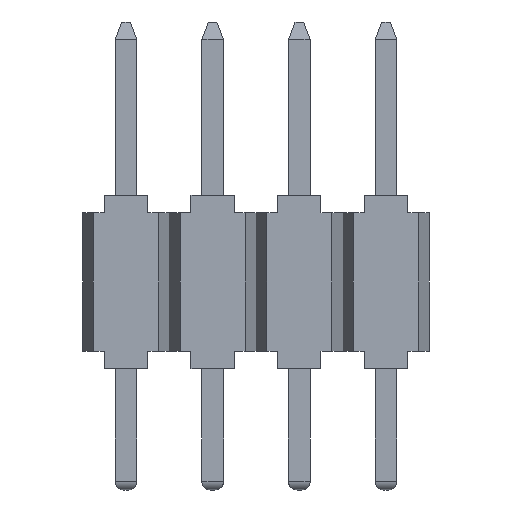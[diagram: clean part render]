
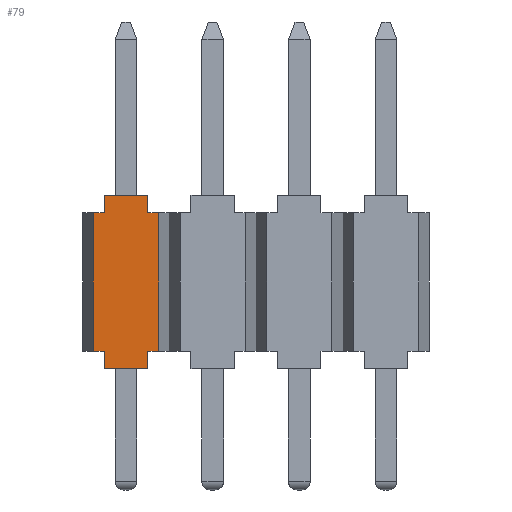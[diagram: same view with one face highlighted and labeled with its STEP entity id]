
A CAD part, front view. The second image highlights one B-rep face of the part: STEP entity #79.
In plain terms, the highlighted planar face has unit normal (0, -1, 0).
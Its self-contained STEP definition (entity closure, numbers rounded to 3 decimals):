
#79=ADVANCED_FACE('',(#391),#243,.T.);
#243=PLANE('',#3122);
#391=FACE_OUTER_BOUND('',#555,.T.);
#555=EDGE_LOOP('',(#782,#783,#784,#785,#786,#787,#788,#789,#790,#791,#792,
#793));
#782=ORIENTED_EDGE('',*,*,#1918,.T.);
#783=ORIENTED_EDGE('',*,*,#1919,.T.);
#784=ORIENTED_EDGE('',*,*,#1920,.T.);
#785=ORIENTED_EDGE('',*,*,#1921,.T.);
#786=ORIENTED_EDGE('',*,*,#1922,.F.);
#787=ORIENTED_EDGE('',*,*,#1923,.T.);
#788=ORIENTED_EDGE('',*,*,#1924,.F.);
#789=ORIENTED_EDGE('',*,*,#1925,.F.);
#790=ORIENTED_EDGE('',*,*,#1926,.T.);
#791=ORIENTED_EDGE('',*,*,#1927,.F.);
#792=ORIENTED_EDGE('',*,*,#1928,.F.);
#793=ORIENTED_EDGE('',*,*,#1929,.F.);
#1642=VERTEX_POINT('',#4200);
#1643=VERTEX_POINT('',#4201);
#1644=VERTEX_POINT('',#4203);
#1645=VERTEX_POINT('',#4205);
#1646=VERTEX_POINT('',#4207);
#1647=VERTEX_POINT('',#4209);
#1648=VERTEX_POINT('',#4211);
#1649=VERTEX_POINT('',#4213);
#1650=VERTEX_POINT('',#4215);
#1651=VERTEX_POINT('',#4217);
#1652=VERTEX_POINT('',#4219);
#1653=VERTEX_POINT('',#4221);
#1918=EDGE_CURVE('',#1642,#1643,#2348,.T.);
#1919=EDGE_CURVE('',#1643,#1644,#2349,.T.);
#1920=EDGE_CURVE('',#1644,#1645,#2350,.T.);
#1921=EDGE_CURVE('',#1645,#1646,#2351,.T.);
#1922=EDGE_CURVE('',#1647,#1646,#2352,.T.);
#1923=EDGE_CURVE('',#1647,#1648,#2353,.T.);
#1924=EDGE_CURVE('',#1649,#1648,#2354,.T.);
#1925=EDGE_CURVE('',#1650,#1649,#2355,.T.);
#1926=EDGE_CURVE('',#1650,#1651,#2356,.T.);
#1927=EDGE_CURVE('',#1652,#1651,#2357,.T.);
#1928=EDGE_CURVE('',#1653,#1652,#2358,.T.);
#1929=EDGE_CURVE('',#1642,#1653,#2359,.T.);
#2348=LINE('',#4199,#2762);
#2349=LINE('',#4202,#2763);
#2350=LINE('',#4204,#2764);
#2351=LINE('',#4206,#2765);
#2352=LINE('',#4208,#2766);
#2353=LINE('',#4210,#2767);
#2354=LINE('',#4212,#2768);
#2355=LINE('',#4214,#2769);
#2356=LINE('',#4216,#2770);
#2357=LINE('',#4218,#2771);
#2358=LINE('',#4220,#2772);
#2359=LINE('',#4222,#2773);
#2762=VECTOR('',#3369,1.);
#2763=VECTOR('',#3370,1.);
#2764=VECTOR('',#3371,1.);
#2765=VECTOR('',#3372,1.);
#2766=VECTOR('',#3373,1.);
#2767=VECTOR('',#3374,1.);
#2768=VECTOR('',#3375,1.);
#2769=VECTOR('',#3376,1.);
#2770=VECTOR('',#3377,1.);
#2771=VECTOR('',#3378,1.);
#2772=VECTOR('',#3379,1.);
#2773=VECTOR('',#3380,1.);
#3122=AXIS2_PLACEMENT_3D('',#4223,#3381,#3382);
#3369=DIRECTION('',(0.,0.,-1.));
#3370=DIRECTION('',(1.,0.,0.));
#3371=DIRECTION('',(0.,0.,-1.));
#3372=DIRECTION('',(1.,0.,0.));
#3373=DIRECTION('',(0.,0.,-1.));
#3374=DIRECTION('',(1.,0.,0.));
#3375=DIRECTION('',(0.,0.,-1.));
#3376=DIRECTION('',(1.,0.,0.));
#3377=DIRECTION('',(0.,0.,1.));
#3378=DIRECTION('',(1.,0.,0.));
#3379=DIRECTION('',(0.,0.,1.));
#3380=DIRECTION('',(1.,0.,0.));
#3381=DIRECTION('',(0.,-1.,0.));
#3382=DIRECTION('',(0.,0.,-1.));
#4199=CARTESIAN_POINT('',(0.25,0.,0.));
#4200=CARTESIAN_POINT('',(0.25,0.,3.2));
#4201=CARTESIAN_POINT('',(0.25,0.,0.));
#4202=CARTESIAN_POINT('',(4.,0.,0.));
#4203=CARTESIAN_POINT('',(0.5,0.,0.));
#4204=CARTESIAN_POINT('',(0.5,0.,-0.4));
#4205=CARTESIAN_POINT('',(0.5,0.,-0.4));
#4206=CARTESIAN_POINT('',(0.5,0.,-0.4));
#4207=CARTESIAN_POINT('',(1.5,0.,-0.4));
#4208=CARTESIAN_POINT('',(1.5,0.,-0.4));
#4209=CARTESIAN_POINT('',(1.5,0.,0.));
#4210=CARTESIAN_POINT('',(4.,0.,0.));
#4211=CARTESIAN_POINT('',(1.75,0.,0.));
#4212=CARTESIAN_POINT('',(1.75,0.,0.));
#4213=CARTESIAN_POINT('',(1.75,0.,3.2));
#4214=CARTESIAN_POINT('',(4.,0.,3.2));
#4215=CARTESIAN_POINT('',(1.5,0.,3.2));
#4216=CARTESIAN_POINT('',(1.5,0.,3.6));
#4217=CARTESIAN_POINT('',(1.5,0.,3.6));
#4218=CARTESIAN_POINT('',(0.5,0.,3.6));
#4219=CARTESIAN_POINT('',(0.5,0.,3.6));
#4220=CARTESIAN_POINT('',(0.5,0.,3.6));
#4221=CARTESIAN_POINT('',(0.5,0.,3.2));
#4222=CARTESIAN_POINT('',(4.,0.,3.2));
#4223=CARTESIAN_POINT('',(4.,0.,0.));
